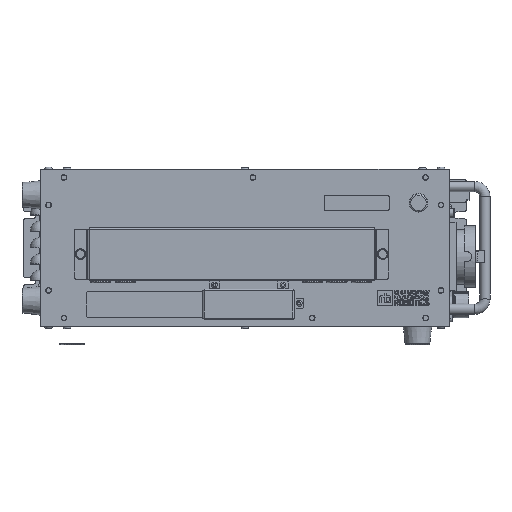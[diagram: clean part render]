
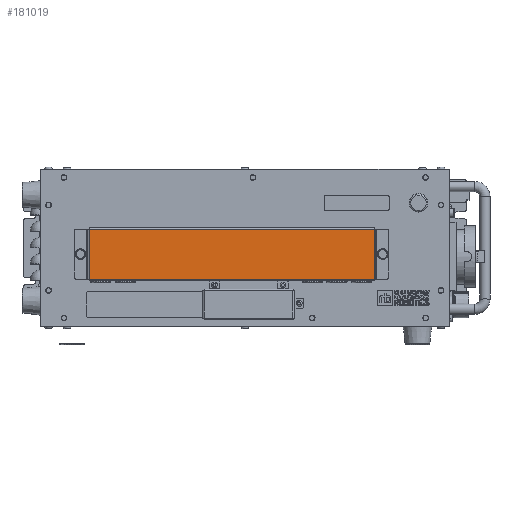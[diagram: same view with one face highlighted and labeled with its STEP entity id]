
A CAD part, top view. The second image highlights one B-rep face of the part: STEP entity #181019.
In plain terms, the highlighted planar face has unit normal (0, 0, 1).
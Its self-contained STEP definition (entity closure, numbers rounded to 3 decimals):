
#18505=LINE('',#263340,#44124);
#18507=LINE('',#263343,#44126);
#18508=LINE('',#263344,#44127);
#18509=LINE('',#263345,#44128);
#44124=VECTOR('',#209788,10.);
#44126=VECTOR('',#209792,10.);
#44127=VECTOR('',#209793,10.);
#44128=VECTOR('',#209794,10.);
#65814=FACE_OUTER_BOUND('',#73401,.T.);
#73401=EDGE_LOOP('',(#151736,#151737,#151738,#151739));
#85759=VERTEX_POINT('',#263225);
#85767=VERTEX_POINT('',#263260);
#85768=VERTEX_POINT('',#263268);
#85771=VERTEX_POINT('',#263278);
#114355=EDGE_CURVE('',#85768,#85767,#18505,.T.);
#114357=EDGE_CURVE('',#85771,#85768,#18507,.T.);
#114358=EDGE_CURVE('',#85759,#85771,#18508,.T.);
#114359=EDGE_CURVE('',#85767,#85759,#18509,.T.);
#151736=ORIENTED_EDGE('',*,*,#114355,.F.);
#151737=ORIENTED_EDGE('',*,*,#114357,.F.);
#151738=ORIENTED_EDGE('',*,*,#114358,.F.);
#151739=ORIENTED_EDGE('',*,*,#114359,.F.);
#174377=PLANE('',#189415);
#181019=ADVANCED_FACE('',(#65814),#174377,.T.);
#189415=AXIS2_PLACEMENT_3D('',#263342,#209790,#209791);
#209788=DIRECTION('',(0.,1.,0.));
#209790=DIRECTION('center_axis',(0.,0.,
1.));
#209791=DIRECTION('ref_axis',(1.,0.,0.));
#209792=DIRECTION('',(-1.,0.,0.));
#209793=DIRECTION('',(0.,-1.,0.));
#209794=DIRECTION('',(1.,0.,0.));
#263225=CARTESIAN_POINT('',(126.6,18.25,32.));
#263260=CARTESIAN_POINT('',(-152.4,18.25,32.));
#263268=CARTESIAN_POINT('',(-152.4,-30.75,32.));
#263278=CARTESIAN_POINT('',(126.6,-30.75,32.));
#263340=CARTESIAN_POINT('',(-152.4,6.75,32.));
#263342=CARTESIAN_POINT('Origin',(-12.9,-6.25,32.));
#263343=CARTESIAN_POINT('',(-83.4,-30.75,32.));
#263344=CARTESIAN_POINT('',(126.6,-19.25,32.));
#263345=CARTESIAN_POINT('',(57.6,18.25,32.));
